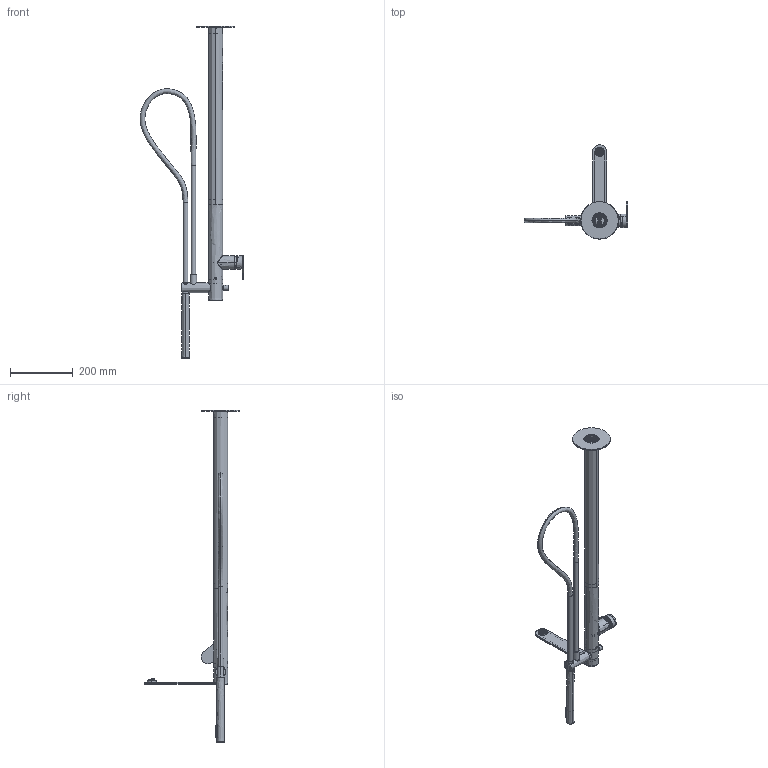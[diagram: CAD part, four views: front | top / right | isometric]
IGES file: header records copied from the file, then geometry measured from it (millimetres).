
Start section:  PTC IGES file: 7959621_sw0001.igs
Global section: file name: 7959621_sw0001.igs; native system: Creo Parametric by PTC Inc.; preprocessor: 2025443; author: carloff; organization: Unknown; date: 20261005.113923; units: millimetre
Bounding box: 330.79 x 302.5 x 1059.3 mm (x, y, z)
Surface area: 569014.9 mm2 (no closed solid volume)
Topology: 0 solids, 0 shells, 5411 faces, 27166 edges, 27140 vertices
Faces by surface type: bspline 3562, revolution 1849
